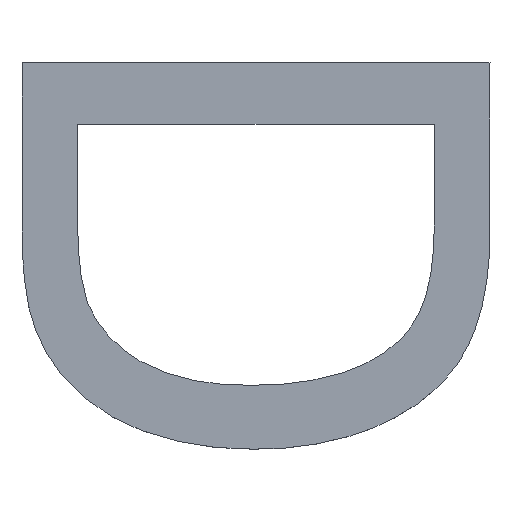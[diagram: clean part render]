
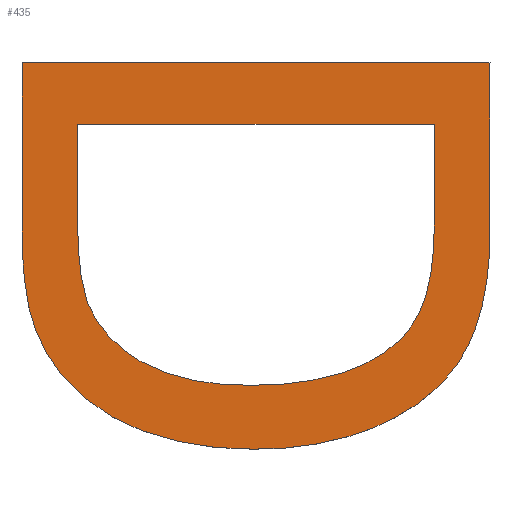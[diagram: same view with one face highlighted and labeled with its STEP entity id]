
A CAD part, top view. The second image highlights one B-rep face of the part: STEP entity #435.
In plain terms, the highlighted planar face has unit normal (0, 0, 1).
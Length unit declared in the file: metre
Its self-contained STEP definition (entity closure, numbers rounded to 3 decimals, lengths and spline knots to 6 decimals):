
#13=CIRCLE('',#446,0.00064);
#15=CIRCLE('',#449,0.000348);
#17=CIRCLE('',#452,0.000339);
#19=CIRCLE('',#455,0.000461);
#21=CIRCLE('',#458,0.000657);
#23=CIRCLE('',#461,0.000629);
#25=CIRCLE('',#464,0.00038);
#27=CIRCLE('',#467,0.000316);
#29=CIRCLE('',#470,0.000811);
#31=CIRCLE('',#477,0.000513);
#33=CIRCLE('',#480,0.000243);
#35=CIRCLE('',#483,0.000443);
#37=CIRCLE('',#486,0.00058);
#39=CIRCLE('',#489,0.000295);
#41=CIRCLE('',#492,0.000209);
#43=CIRCLE('',#495,0.0005);
#165=ORIENTED_EDGE('',*,*,#244,.T.);
#166=ORIENTED_EDGE('',*,*,#242,.T.);
#167=ORIENTED_EDGE('',*,*,#239,.T.);
#168=ORIENTED_EDGE('',*,*,#236,.T.);
#169=ORIENTED_EDGE('',*,*,#233,.T.);
#170=ORIENTED_EDGE('',*,*,#230,.T.);
#171=ORIENTED_EDGE('',*,*,#227,.T.);
#172=ORIENTED_EDGE('',*,*,#224,.T.);
#173=ORIENTED_EDGE('',*,*,#221,.T.);
#174=ORIENTED_EDGE('',*,*,#218,.T.);
#175=ORIENTED_EDGE('',*,*,#215,.T.);
#176=ORIENTED_EDGE('',*,*,#212,.T.);
#177=ORIENTED_EDGE('',*,*,#274,.T.);
#178=ORIENTED_EDGE('',*,*,#272,.T.);
#179=ORIENTED_EDGE('',*,*,#269,.T.);
#180=ORIENTED_EDGE('',*,*,#266,.T.);
#181=ORIENTED_EDGE('',*,*,#263,.T.);
#182=ORIENTED_EDGE('',*,*,#260,.T.);
#183=ORIENTED_EDGE('',*,*,#257,.T.);
#184=ORIENTED_EDGE('',*,*,#254,.T.);
#185=ORIENTED_EDGE('',*,*,#251,.T.);
#186=ORIENTED_EDGE('',*,*,#248,.T.);
#212=EDGE_CURVE('',#275,#278,#322,.T.);
#215=EDGE_CURVE('',#279,#275,#324,.F.);
#218=EDGE_CURVE('',#281,#279,#13,.F.);
#221=EDGE_CURVE('',#283,#281,#15,.F.);
#224=EDGE_CURVE('',#285,#283,#17,.F.);
#227=EDGE_CURVE('',#287,#285,#19,.F.);
#230=EDGE_CURVE('',#289,#287,#21,.F.);
#233=EDGE_CURVE('',#291,#289,#23,.F.);
#236=EDGE_CURVE('',#293,#291,#25,.F.);
#239=EDGE_CURVE('',#295,#293,#27,.F.);
#242=EDGE_CURVE('',#297,#295,#29,.F.);
#244=EDGE_CURVE('',#278,#297,#327,.T.);
#248=EDGE_CURVE('',#299,#302,#330,.T.);
#251=EDGE_CURVE('',#303,#299,#333,.F.);
#254=EDGE_CURVE('',#305,#303,#335,.F.);
#257=EDGE_CURVE('',#307,#305,#31,.T.);
#260=EDGE_CURVE('',#309,#307,#33,.T.);
#263=EDGE_CURVE('',#311,#309,#35,.T.);
#266=EDGE_CURVE('',#313,#311,#37,.T.);
#269=EDGE_CURVE('',#315,#313,#39,.T.);
#272=EDGE_CURVE('',#317,#315,#41,.T.);
#274=EDGE_CURVE('',#302,#317,#43,.T.);
#275=VERTEX_POINT('',#632);
#278=VERTEX_POINT('',#637);
#279=VERTEX_POINT('',#644);
#281=VERTEX_POINT('',#653);
#283=VERTEX_POINT('',#659);
#285=VERTEX_POINT('',#668);
#287=VERTEX_POINT('',#677);
#289=VERTEX_POINT('',#686);
#291=VERTEX_POINT('',#695);
#293=VERTEX_POINT('',#704);
#295=VERTEX_POINT('',#713);
#297=VERTEX_POINT('',#722);
#299=VERTEX_POINT('',#731);
#302=VERTEX_POINT('',#739);
#303=VERTEX_POINT('',#743);
#305=VERTEX_POINT('',#752);
#307=VERTEX_POINT('',#761);
#309=VERTEX_POINT('',#770);
#311=VERTEX_POINT('',#779);
#313=VERTEX_POINT('',#788);
#315=VERTEX_POINT('',#797);
#317=VERTEX_POINT('',#806);
#322=LINE('',#638,#339);
#324=LINE('',#647,#341);
#327=LINE('',#728,#344);
#330=LINE('',#740,#347);
#333=LINE('',#746,#350);
#335=LINE('',#755,#352);
#339=VECTOR('',#505,1.);
#341=VECTOR('',#509,1.);
#344=VECTOR('',#568,1.);
#347=VECTOR('',#573,1.);
#350=VECTOR('',#578,1.);
#352=VECTOR('',#582,1.);
#375=EDGE_LOOP('',(#165,#166,#167,#168,#169,#170,#171,#172,#173,#174,#175,
#176));
#376=EDGE_LOOP('',(#177,#178,#179,#180,#181,#182,#183,#184,#185,#186));
#401=FACE_BOUND('',#375,.T.);
#402=FACE_BOUND('',#376,.T.);
#411=PLANE('',#496);
#435=ADVANCED_FACE('',(#401,#402),#411,.F.);
#446=AXIS2_PLACEMENT_3D('',#656,#514,#515);
#449=AXIS2_PLACEMENT_3D('',#662,#521,#522);
#452=AXIS2_PLACEMENT_3D('',#671,#527,#528);
#455=AXIS2_PLACEMENT_3D('',#680,#533,#534);
#458=AXIS2_PLACEMENT_3D('',#689,#539,#540);
#461=AXIS2_PLACEMENT_3D('',#698,#545,#546);
#464=AXIS2_PLACEMENT_3D('',#707,#551,#552);
#467=AXIS2_PLACEMENT_3D('',#716,#557,#558);
#470=AXIS2_PLACEMENT_3D('',#725,#563,#564);
#477=AXIS2_PLACEMENT_3D('',#764,#587,#588);
#480=AXIS2_PLACEMENT_3D('',#773,#593,#594);
#483=AXIS2_PLACEMENT_3D('',#782,#599,#600);
#486=AXIS2_PLACEMENT_3D('',#791,#605,#606);
#489=AXIS2_PLACEMENT_3D('',#800,#611,#612);
#492=AXIS2_PLACEMENT_3D('',#809,#617,#618);
#495=AXIS2_PLACEMENT_3D('',#812,#623,#624);
#496=AXIS2_PLACEMENT_3D('',#813,#625,#626);
#505=DIRECTION('',(-1.,0.,0.));
#509=DIRECTION('',(0.,-1.,0.));
#514=DIRECTION('',(0.,0.,-1.));
#515=DIRECTION('',(1.,0.,0.));
#521=DIRECTION('',(0.,0.,-1.));
#522=DIRECTION('',(1.,0.,0.));
#527=DIRECTION('',(0.,0.,-1.));
#528=DIRECTION('',(1.,0.,0.));
#533=DIRECTION('',(0.,0.,-1.));
#534=DIRECTION('',(1.,0.,0.));
#539=DIRECTION('',(0.,0.,-1.));
#540=DIRECTION('',(1.,0.,0.));
#545=DIRECTION('',(0.,0.,-1.));
#546=DIRECTION('',(1.,0.,0.));
#551=DIRECTION('',(0.,0.,-1.));
#552=DIRECTION('',(1.,0.,0.));
#557=DIRECTION('',(0.,0.,-1.));
#558=DIRECTION('',(1.,0.,0.));
#563=DIRECTION('',(0.,0.,-1.));
#564=DIRECTION('',(1.,0.,0.));
#568=DIRECTION('',(0.,-1.,0.));
#573=DIRECTION('',(0.,-1.,0.));
#578=DIRECTION('',(-1.,0.,0.));
#582=DIRECTION('',(0.,-1.,0.));
#587=DIRECTION('',(0.,0.,-1.));
#588=DIRECTION('',(1.,0.,0.));
#593=DIRECTION('',(0.,0.,-1.));
#594=DIRECTION('',(1.,0.,0.));
#599=DIRECTION('',(0.,0.,-1.));
#600=DIRECTION('',(1.,0.,0.));
#605=DIRECTION('',(0.,0.,-1.));
#606=DIRECTION('',(1.,0.,0.));
#611=DIRECTION('',(0.,0.,-1.));
#612=DIRECTION('',(1.,0.,0.));
#617=DIRECTION('',(0.,0.,-1.));
#618=DIRECTION('',(1.,0.,0.));
#623=DIRECTION('',(0.,0.,-1.));
#624=DIRECTION('',(1.,0.,0.));
#625=DIRECTION('',(0.,0.,-1.));
#626=DIRECTION('',(0.,-1.,0.));
#632=CARTESIAN_POINT('',(-0.023188,0.00473,-0.03));
#637=CARTESIAN_POINT('',(-0.024123,0.00473,-0.03));
#638=CARTESIAN_POINT('',(-0.023656,0.00473,-0.03));
#644=CARTESIAN_POINT('',(-0.023188,0.004393,-0.03));
#647=CARTESIAN_POINT('',(-0.023188,0.004389,-0.03));
#653=CARTESIAN_POINT('',(-0.023204,0.004243,-0.03));
#656=CARTESIAN_POINT('',(-0.023828,0.004384,-0.03));
#659=CARTESIAN_POINT('',(-0.023251,0.004132,-0.03));
#662=CARTESIAN_POINT('',(-0.023544,0.004319,-0.03));
#668=CARTESIAN_POINT('',(-0.023336,0.004047,-0.03));
#671=CARTESIAN_POINT('',(-0.023529,0.004326,-0.03));
#677=CARTESIAN_POINT('',(-0.023472,0.003983,-0.03));
#680=CARTESIAN_POINT('',(-0.023596,0.004428,-0.03));
#686=CARTESIAN_POINT('',(-0.023661,0.003958,-0.03));
#689=CARTESIAN_POINT('',(-0.02365,0.004615,-0.03));
#695=CARTESIAN_POINT('',(-0.023883,0.003995,-0.03));
#698=CARTESIAN_POINT('',(-0.023673,0.004588,-0.03));
#704=CARTESIAN_POINT('',(-0.024043,0.004105,-0.03));
#707=CARTESIAN_POINT('',(-0.023755,0.004353,-0.03));
#713=CARTESIAN_POINT('',(-0.02411,0.004242,-0.03));
#716=CARTESIAN_POINT('',(-0.0238,0.004308,-0.03));
#722=CARTESIAN_POINT('',(-0.024123,0.004408,-0.03));
#725=CARTESIAN_POINT('',(-0.023312,0.004386,-0.03));
#728=CARTESIAN_POINT('',(-0.024123,0.004389,-0.03));
#731=CARTESIAN_POINT('',(-0.0233,0.004608,-0.03));
#739=CARTESIAN_POINT('',(-0.0233,0.004408,-0.03));
#740=CARTESIAN_POINT('',(-0.0233,0.004389,-0.03));
#743=CARTESIAN_POINT('',(-0.024012,0.004608,-0.03));
#746=CARTESIAN_POINT('',(-0.023656,0.004608,-0.03));
#752=CARTESIAN_POINT('',(-0.024012,0.004411,-0.03));
#755=CARTESIAN_POINT('',(-0.024012,0.004389,-0.03));
#761=CARTESIAN_POINT('',(-0.023993,0.004251,-0.03));
#764=CARTESIAN_POINT('',(-0.023499,0.004386,-0.03));
#770=CARTESIAN_POINT('',(-0.023888,0.004134,-0.03));
#773=CARTESIAN_POINT('',(-0.02377,0.004347,-0.03));
#779=CARTESIAN_POINT('',(-0.023663,0.004086,-0.03));
#782=CARTESIAN_POINT('',(-0.02369,0.004529,-0.03));
#788=CARTESIAN_POINT('',(-0.023483,0.00411,-0.03));
#791=CARTESIAN_POINT('',(-0.023648,0.004666,-0.03));
#797=CARTESIAN_POINT('',(-0.023365,0.004179,-0.03));
#800=CARTESIAN_POINT('',(-0.023568,0.004394,-0.03));
#806=CARTESIAN_POINT('',(-0.023317,0.004263,-0.03));
#809=CARTESIAN_POINT('',(-0.023518,0.004321,-0.03));
#812=CARTESIAN_POINT('',(-0.0238,0.00439,-0.03));
#813=CARTESIAN_POINT('',(-0.023656,0.004389,-0.03));
